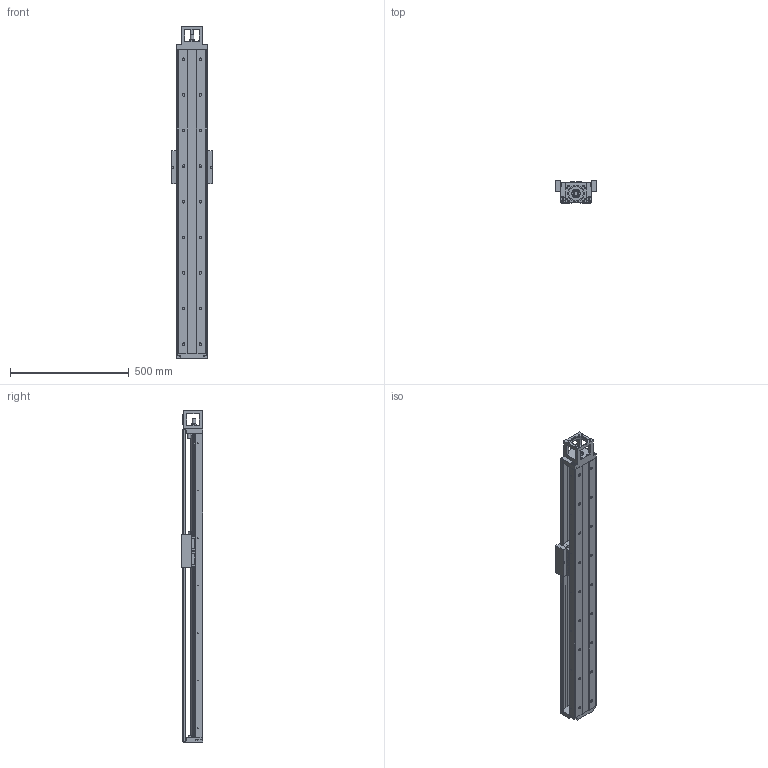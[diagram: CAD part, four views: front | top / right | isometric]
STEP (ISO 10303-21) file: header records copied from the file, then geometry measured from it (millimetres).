
FILE_DESCRIPTION(/* description */ (''),/* implementation_level */ '2;1');
FILE_NAME(/* name */ 'TKK130-1280A1F0C.stp',/* time_stamp */ '2016-12-22T10:20:20+08:00',/* author */ (''),/* organization */ (''),/* preprocessor_version */ 'ST-DEVELOPER v15',/* originating_system */ 'SIEMENS PLM Software NX 8.5',/* authorisation */ '');
FILE_SCHEMA (('AUTOMOTIVE_DESIGN { 1 0 10303 214 3 1 1 1 }'));
Length unit declared in the file: millimetre
Products named in the file (3): 022; 011; TKK130-1280A1F0C
Assembly tree (2 placements, depth 2):
  TKK130-1280A1F0C
    011
    022
Bounding box: 170 x 92 x 1398 mm (x, y, z)
Volume: 6217255.6 mm3; surface area: 1321789.5 mm2
Topology: 2 solids, 44 shells, 1143 faces, 3067 edges, 2005 vertices
Faces by surface type: plane 624, cylinder 348, cone 131, extrusion 33, bspline 6, torus 1
Full cylindrical faces by diameter (mm): 2.1 x14, 2.5 x8, 3.3 x58, 4.5 x20, 5 x23, 6.6 x10, 6.8 x12, 7 x2, 8 x16, 8.5 x4, 9 x8, 11 x26, 12 x4, 15 x1, 16.3 x1, 17 x20, 17.5 x4, 25 x1, 35 x2, 40 x3, 60.03 x1, 70.03 x1
Entity records: 34102 total; most frequent: CARTESIAN_POINT 7390, DIRECTION 5206, ORIENTED_EDGE 4814, EDGE_CURVE 2407, AXIS2_PLACEMENT_3D 1867, VERTEX_POINT 1818, EDGE_LOOP 1625, VECTOR 1472
